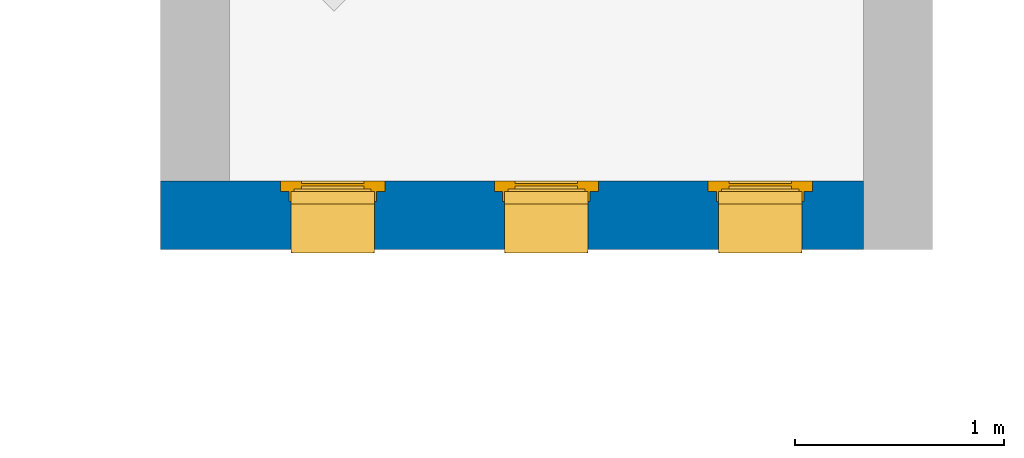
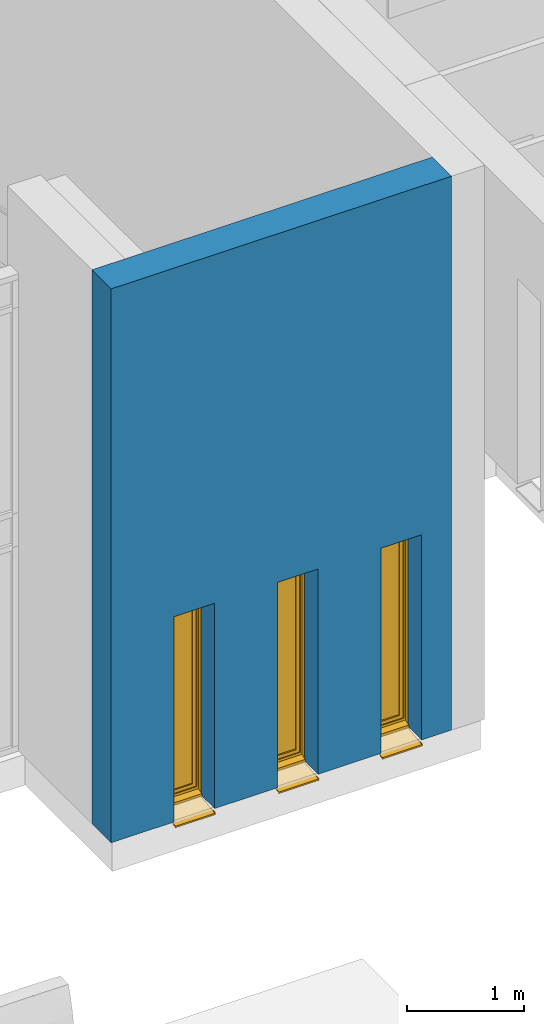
# One storey, part 5 of 40: 3 windows, 1 wall, 3 openings.
"""IFC2X3 building model written with IfcOpenShell, lengths in metres."""

import ifcopenshell
import ifcopenshell.guid

model = None  # the IFC model being written
_history = None  # IfcOwnerHistory: only IFC2X3 demands one
_inside = {}  # id of a spatial element -> (the spatial element, [elements in it])
_under = {}  # id of a project, library or spatial element -> (it, [spatial elements below it])
_declared = {}  # id of a project -> (the project, [libraries it declares])
_typed = {}  # id of a type object -> (the type object, [elements of that type])
_made_of = {}  # id of a material, layer set ... -> (it, [elements and type objects made of it])


def new_model(schema):
    """Start an empty IFC model of exactly this schema.

    Asked for "IFC4X3", IfcOpenShell would pick the latest addendum, in which some entities
    have other attributes; the version numbers below select the first issue.
    IFC2X3 requires an IfcOwnerHistory on every rooted entity: one is made here for all.
    """
    global model, _history
    if schema == "IFC4X3":
        model = ifcopenshell.file(schema_version=(4, 3, 0, 0))
    else:
        model = ifcopenshell.file(schema=schema)
    _inside.clear()
    _under.clear()
    _declared.clear()
    _typed.clear()
    _made_of.clear()
    _history = None
    if model.schema == "IFC2X3":
        org = make("IfcOrganization", Name="unknown")
        user = make(
            "IfcPersonAndOrganization",
            ThePerson=make("IfcPerson", FamilyName="unknown"),
            TheOrganization=org,
        )
        app = make(
            "IfcApplication",
            ApplicationDeveloper=org,
            Version="unknown",
            ApplicationFullName="unknown",
            ApplicationIdentifier="unknown",
        )
        _history = make(
            "IfcOwnerHistory",
            OwningUser=user,
            OwningApplication=app,
            ChangeAction="ADDED",
            CreationDate=0,
        )
    return model


def make(cls, **values):
    """One entity of the class cls with the attributes given. An attribute that is None is left unset."""
    return model.create_entity(
        cls, **{name: value for name, value in values.items() if value is not None}
    )


def entity(cls, *values):
    """Any entity or typed value of the class cls, its attributes in the order of the schema. None: left unset."""
    e = model.create_entity(cls)
    for i, value in enumerate(values):
        if value is not None:
            e[i] = value
    return e


def rooted(cls, **values):
    """An entity with a GlobalId (a new one), such as an element, a storey or a relation."""
    return make(cls, GlobalId=ifcopenshell.guid.new(), OwnerHistory=_history, **values)


def si_unit(unit_type, name, prefix=None):
    """IfcSIUnit, for example si_unit("LENGTHUNIT", "METRE", prefix="MILLI")."""
    return make("IfcSIUnit", UnitType=unit_type, Prefix=prefix, Name=name)


def converted_unit(unit_type, name, factor, base, dimensions=None, offset=None):
    """IfcConversionBasedUnit, such as the inch: factor (a typed value) times the base unit."""
    return make(
        "IfcConversionBasedUnit"
        if offset is None
        else "IfcConversionBasedUnitWithOffset",
        ConversionOffset=offset,
        Dimensions=None
        if dimensions is None
        else entity("IfcDimensionalExponents", *dimensions),
        UnitType=unit_type,
        Name=name,
        ConversionFactor=make(
            "IfcMeasureWithUnit", ValueComponent=factor, UnitComponent=base
        ),
    )


def derived_unit(unit_type, elements):
    """IfcDerivedUnit: a product of units, each with its exponent."""
    return make(
        "IfcDerivedUnit",
        Elements=[
            make("IfcDerivedUnitElement", Unit=unit, Exponent=power)
            for unit, power in elements
        ],
        UnitType=unit_type,
    )


def assignment(units):
    """IfcUnitAssignment: the units of a project."""
    return None if units is None else make("IfcUnitAssignment", Units=units)


def point(xyz):
    """IfcCartesianPoint."""
    return None if xyz is None else make("IfcCartesianPoint", Coordinates=xyz)


def direction(xyz):
    """IfcDirection."""
    return None if xyz is None else make("IfcDirection", DirectionRatios=xyz)


def frame(location, z_axis=None, x_axis=None):
    """IfcAxis2Placement3D, a coordinate frame: its origin and axes. An axis left out is left unset."""
    return make(
        "IfcAxis2Placement3D",
        Location=point(location),
        Axis=direction(z_axis),
        RefDirection=direction(x_axis),
    )


def frame_2d(location, x_axis=None):
    """IfcAxis2Placement2D, a coordinate frame in the plane: its origin and x axis."""
    return make(
        "IfcAxis2Placement2D", Location=point(location), RefDirection=direction(x_axis)
    )


def origin():
    """The frame at (0, 0, 0) with its axes left unset."""
    return frame((0.0, 0.0, 0.0))


def place(relative_to, where):
    """IfcLocalPlacement: puts the frame where relative to a parent placement (None: the world)."""
    return make(
        "IfcLocalPlacement", PlacementRelTo=relative_to, RelativePlacement=where
    )


def context(
    kind, dimensions, precision=None, world=None, true_north=None, identifier=None
):
    """IfcGeometricRepresentationContext, for example the 3D "Model" context."""
    return make(
        "IfcGeometricRepresentationContext",
        ContextIdentifier=identifier,
        ContextType=kind,
        CoordinateSpaceDimension=dimensions,
        Precision=precision,
        WorldCoordinateSystem=world,
        TrueNorth=true_north,
    )


def subcontext(parent, identifier, kind, view, scale=None):
    """IfcGeometricRepresentationSubContext, for example "Body" below "Model"."""
    return make(
        "IfcGeometricRepresentationSubContext",
        ContextIdentifier=identifier,
        ContextType=kind,
        ParentContext=parent,
        TargetScale=scale,
        TargetView=view,
    )


def project(units=None, contexts=None):
    """IfcProject with its units and contexts."""
    return rooted(
        "IfcProject",
        Name="project",
        RepresentationContexts=contexts,
        UnitsInContext=assignment(units),
    )


def spatial(cls, under=None, at=None, **own):
    """A site, building, storey or space (cls), placed at a placement, below another one or the project."""
    s = rooted(cls, ObjectPlacement=at, **own)
    if under is not None:
        _under.setdefault(under.id(), (under, []))[1].append(s)
    return s


def profile(cls, at=None, kind="AREA", **sizes):
    """A parametric profile (cls). Its sizes go by their IFC names, for example OverallWidth=200.0."""
    return make(cls, ProfileType=kind, Position=at, **sizes)


def rectangle(**sizes):
    """IfcRectangleProfileDef."""
    return profile("IfcRectangleProfileDef", **sizes)


def extrude(swept, where, along, depth):
    """IfcExtrudedAreaSolid: the profile swept, set in the frame where, extruded along a direction by depth."""
    return make(
        "IfcExtrudedAreaSolid",
        SweptArea=swept,
        Position=where,
        ExtrudedDirection=direction(along),
        Depth=depth,
    )


def faces_of(points, faces, orient=None, outer=None):
    """IfcFace entities. A face is a list of loops; a loop is a list of indices into points, from 0.

    orient and outer hold one flag for each loop. By default every Orientation is true, the
    first loop of a face is its IfcFaceOuterBound and the others are IfcFaceBound.
    """
    made = []
    for i, loops in enumerate(faces):
        bounds = []
        for j, loop in enumerate(loops):
            is_outer = j == 0 if outer is None else outer[i][j]
            bounds.append(
                make(
                    "IfcFaceOuterBound" if is_outer else "IfcFaceBound",
                    Bound=make("IfcPolyLoop", Polygon=[points[k] for k in loop]),
                    Orientation=True if orient is None else orient[i][j],
                )
            )
        made.append(make("IfcFace", Bounds=bounds))
    return made


def faceted_brep(points, faces, orient=None, outer=None, voids=None):
    """IfcFacetedBrep: a solid bounded by flat faces; with voids (closed shells), ...WithVoids."""
    shared = [point(p) for p in points]
    hull = make("IfcClosedShell", CfsFaces=faces_of(shared, faces, orient, outer))
    if voids is None:
        return make("IfcFacetedBrep", Outer=hull)
    return make(
        "IfcFacetedBrepWithVoids",
        Outer=hull,
        Voids=[
            make(cls, CfsFaces=faces_of(shared, fs, o, b)) for cls, fs, o, b in voids
        ],
    )


def shape(context_of_items, identifier, shape_type, items):
    """IfcShapeRepresentation: the items that make up one representation, for example the "Body"."""
    return make(
        "IfcShapeRepresentation",
        ContextOfItems=context_of_items,
        RepresentationIdentifier=identifier,
        RepresentationType=shape_type,
        Items=items,
    )


def source(mapping_origin, context_of_items, identifier, shape_type, items):
    """IfcRepresentationMap: a shape defined once, which mapped items show again and again."""
    return make(
        "IfcRepresentationMap",
        MappingOrigin=mapping_origin,
        MappedRepresentation=shape(context_of_items, identifier, shape_type, items),
    )


def transform(
    local_origin,
    x_axis=None,
    y_axis=None,
    z_axis=None,
    scale=None,
    scale2=None,
    scale3=None,
    uniform=True,
):
    """IfcCartesianTransformationOperator3D, or its non-uniform kind. x_axis, y_axis, z_axis: its Axis1, 2, 3."""
    if uniform:
        return make(
            "IfcCartesianTransformationOperator3D",
            Axis1=direction(x_axis),
            Axis2=direction(y_axis),
            LocalOrigin=point(local_origin),
            Scale=scale,
            Axis3=direction(z_axis),
        )
    return make(
        "IfcCartesianTransformationOperator3DnonUniform",
        Axis1=direction(x_axis),
        Axis2=direction(y_axis),
        LocalOrigin=point(local_origin),
        Scale=scale,
        Axis3=direction(z_axis),
        Scale2=scale2,
        Scale3=scale3,
    )


def mapped(mapping_source, mapping_target):
    """IfcMappedItem: shows the shape of a source again, moved by a transform."""
    return make(
        "IfcMappedItem", MappingSource=mapping_source, MappingTarget=mapping_target
    )


def material(Name=None, Category=None):
    """IfcMaterial."""
    return make("IfcMaterial", Name=Name, Category=Category)


def material_list(materials):
    """IfcMaterialList."""
    return make("IfcMaterialList", Materials=materials)


def layer(
    of_material, thickness, ventilated=None, Name=None, Category=None, Priority=None
):
    """IfcMaterialLayer: one layer of a wall or slab, of a material (None: an air gap)."""
    return make(
        "IfcMaterialLayer",
        Material=of_material,
        LayerThickness=thickness,
        IsVentilated=ventilated,
        Name=Name,
        Category=Category,
        Priority=Priority,
    )


def layer_set(layers, Name=None):
    """IfcMaterialLayerSet."""
    return make("IfcMaterialLayerSet", MaterialLayers=layers, LayerSetName=Name)


def layer_usage(for_layer_set, set_direction, sense, offset, extent=None):
    """IfcMaterialLayerSetUsage: how a layer set lies in its element."""
    return make(
        "IfcMaterialLayerSetUsage",
        ForLayerSet=for_layer_set,
        LayerSetDirection=set_direction,
        DirectionSense=sense,
        OffsetFromReferenceLine=offset,
        ReferenceExtent=extent,
    )


def made_of(thing, what):
    """Note that an element or type object is made of a material, layer set ...; save() writes the relation."""
    if what is not None:
        _made_of.setdefault(what.id(), (what, []))[1].append(thing)
    return thing


def type_object(cls, material=None, **own):
    """A type object (cls), such as IfcWallType, which elements share."""
    return made_of(rooted(cls, **own), material)


def type_shapes(of_type, sources):
    """Give a type object the sources (RepresentationMaps) that its elements show as mapped items."""
    of_type.RepresentationMaps = sources


def element(
    cls,
    number,
    at=None,
    inside=None,
    cuts=None,
    type_object=None,
    material=None,
    context=None,
    identifier="Body",
    shape_type=None,
    held_by="IfcProductDefinitionShape",
    body=None,
    shapes=None,
    **own,
):
    """One element of the class cls, such as IfcWall. Its Tag is "e" and its number.

    at: its placement. inside: the storey or other place that contains it. cuts: it is an
    opening in that element (IfcRelVoidsElement). A single representation is given by context,
    identifier, shape_type and body (its items); several are given by shapes. held_by: the class
    of the entity that holds the representations. save() writes the other relations.
    """
    e = rooted(cls, Tag="e%d" % number, ObjectPlacement=at, **own)
    if body is not None:
        shapes = [shape(context, identifier, shape_type, body)]
    if shapes is not None:
        e.Representation = make(held_by, Representations=shapes)
    if inside is not None:
        _inside.setdefault(inside.id(), (inside, []))[1].append(e)
    if cuts is not None:
        rooted(
            "IfcRelVoidsElement", RelatingBuildingElement=cuts, RelatedOpeningElement=e
        )
    if type_object is not None:
        _typed.setdefault(type_object.id(), (type_object, []))[1].append(e)
    return made_of(e, material)


def fill(opening, filler):
    """IfcRelFillsElement: the door or window that sits in an opening."""
    return rooted(
        "IfcRelFillsElement",
        RelatingOpeningElement=opening,
        RelatedBuildingElement=filler,
    )


def aggregate(whole, parts):
    """IfcRelAggregates: a whole, such as a stair, and the parts it consists of."""
    return rooted("IfcRelAggregates", RelatingObject=whole, RelatedObjects=parts)


def save(model, path):
    """Write the relations noted so far, then the file.

    IfcRelAggregates (storeys below a building ...), IfcRelContainedInSpatialStructure (elements
    in a storey), IfcRelDefinesByType, IfcRelAssociatesMaterial and IfcRelDeclares: one each for
    every whole, place, type object, material and project.
    """
    for whole, parts in _under.values():
        aggregate(whole, parts)
    for where, things in _inside.values():
        rooted(
            "IfcRelContainedInSpatialStructure",
            RelatedElements=things,
            RelatingStructure=where,
        )
    for kind, things in _typed.values():
        rooted("IfcRelDefinesByType", RelatedObjects=things, RelatingType=kind)
    for what, things in _made_of.values():
        rooted("IfcRelAssociatesMaterial", RelatedObjects=things, RelatingMaterial=what)
    for by, libraries in _declared.values():
        rooted("IfcRelDeclares", RelatingContext=by, RelatedDefinitions=libraries)
    model.write(path)


model = new_model("IFC2X3")

# Units and contexts
model_context = context("Model", 3, precision=1e-05, world=origin(), true_north=direction((6.12303176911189e-17, 1.0)))
body_context = subcontext(model_context, "Body", "Model", "MODEL_VIEW")
ifc_project = project(units=[si_unit("LENGTHUNIT", "METRE"), si_unit("AREAUNIT", "SQUARE_METRE"), si_unit("VOLUMEUNIT", "CUBIC_METRE"), converted_unit("PLANEANGLEUNIT", "DEGREE", entity("IfcRatioMeasure", 0.0174532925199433), si_unit("PLANEANGLEUNIT", "RADIAN"), dimensions=[0, 0, 0, 0, 0, 0, 0]), si_unit("MASSUNIT", "GRAM", prefix="KILO"), derived_unit("MASSDENSITYUNIT", [(si_unit("MASSUNIT", "GRAM", prefix="KILO"), 1), (si_unit("LENGTHUNIT", "METRE"), -3)]), si_unit("TIMEUNIT", "SECOND"), si_unit("FREQUENCYUNIT", "HERTZ"), si_unit("THERMODYNAMICTEMPERATUREUNIT", "DEGREE_CELSIUS"), derived_unit("THERMALTRANSMITTANCEUNIT", [(si_unit("MASSUNIT", "GRAM", prefix="KILO"), 1), (si_unit("THERMODYNAMICTEMPERATUREUNIT", "KELVIN"), -1), (si_unit("TIMEUNIT", "SECOND"), -3)]), derived_unit("VOLUMETRICFLOWRATEUNIT", [(si_unit("LENGTHUNIT", "METRE"), 3), (si_unit("TIMEUNIT", "SECOND"), -1)]), si_unit("ELECTRICCURRENTUNIT", "AMPERE"), si_unit("ELECTRICVOLTAGEUNIT", "VOLT"), si_unit("POWERUNIT", "WATT"), si_unit("FORCEUNIT", "NEWTON", prefix="KILO"), si_unit("ILLUMINANCEUNIT", "LUX"), si_unit("LUMINOUSFLUXUNIT", "LUMEN"), si_unit("LUMINOUSINTENSITYUNIT", "CANDELA"), derived_unit("USERDEFINED", [(si_unit("MASSUNIT", "GRAM", prefix="KILO"), -1), (si_unit("LENGTHUNIT", "METRE"), -2), (si_unit("TIMEUNIT", "SECOND"), 3), (si_unit("LUMINOUSFLUXUNIT", "LUMEN"), 1)]), derived_unit("LINEARVELOCITYUNIT", [(si_unit("LENGTHUNIT", "METRE"), 1), (si_unit("TIMEUNIT", "SECOND"), -1)]), si_unit("PRESSUREUNIT", "PASCAL"), derived_unit("USERDEFINED", [(si_unit("LENGTHUNIT", "METRE"), -2), (si_unit("MASSUNIT", "GRAM", prefix="KILO"), 1), (si_unit("TIMEUNIT", "SECOND"), -2)])], contexts=[model_context])

# Site, building, storey
site_placement = place(None, origin())
site = spatial("IfcSite", under=ifc_project, at=site_placement, Name="Surface", CompositionType="ELEMENT")
building_placement = place(site_placement, origin())
building = spatial("IfcBuilding", under=site, at=building_placement, CompositionType="ELEMENT")
storey_placement = place(building_placement, origin())
storey = spatial("IfcBuildingStorey", under=building, at=storey_placement, Name="RDC", CompositionType="ELEMENT", Elevation=-1.0941605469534e-13)

# Wall, openings, windows
ifc_material_1 = material(Name="Maçonnerie - Enduit")
ifc_layer_1 = layer(ifc_material_1, 0.02)
ifc_material_2 = material(Name="Blocs béton manufacturés")
ifc_layer_2 = layer(ifc_material_2, 0.2)
ifc_material_3 = material(Name="vide")
ifc_layer_3 = layer(ifc_material_3, 0.01)
ifc_material_4 = material(Name="Maçonnerie - Isolant")
ifc_layer_4 = layer(ifc_material_4, 0.09)
ifc_material_5 = material(Name="Plâtre")
ifc_layer_5 = layer(ifc_material_5, 0.01)
ifc_layer_set = layer_set([ifc_layer_1, ifc_layer_2, ifc_layer_3, ifc_layer_4, ifc_layer_5], Name="Mur de base:M7 Ext. Crépis 2 + BBMC 20 + Isolant 11")
ifc_layer_usage = layer_usage(ifc_layer_set, "AXIS2", "NEGATIVE", 0.165)
wall_type = type_object("IfcWallType", Name="Mur de base:M7 Ext. Crépis 2 + BBMC 20 + Isolant 11", PredefinedType="STANDARD", material=ifc_layer_set)
wall_placement = place(storey_placement, frame((9.4675111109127, -0.357989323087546, 0.0), z_axis=(0.0, 0.0, 1.0), x_axis=(-1.0, 0.0, 0.0)))
wall = element("IfcWallStandardCase", 1, at=wall_placement, inside=storey, type_object=wall_type, material=ifc_layer_usage, Name="Mur de base:M7 Ext. Crépis 2 + BBMC 20 + Isolant 11", ObjectType="Mur de base:M7 Ext. Crépis 2 + BBMC 20 + Isolant 11", context=body_context, shape_type="SweptSolid", body=[
    extrude(rectangle(XDim=3.37, YDim=0.33, at=frame_2d((1.685, 0.0), x_axis=(-1.0, 0.0))), origin(), (0.0, 0.0, 1.0), 5.80000000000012),
])
opening_1_placement = place(wall_placement, frame((2.795, 0.500000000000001, -0.0764859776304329), z_axis=(0.0, 0.0, 1.0), x_axis=(-1.0, 0.0, 0.0)))
opening_1 = element("IfcOpeningElement", 2, at=opening_1_placement, cuts=wall, Name="Mur de base:M7 Ext. Crépis 2 + BBMC 20 + Isolant 11", ObjectType="Opening", context=body_context, shape_type="Brep", body=[
    faceted_brep([(0.45, 0.585000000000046, 0.0764859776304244), (0.45, 0.564999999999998, 0.0764859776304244), (0.45, 0.564999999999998, 2.22648597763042), (0.449999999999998, 0.0, 2.22648597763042), (0.449999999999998, 0.0, 0.0), (0.45, 0.585000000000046, 0.0614859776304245), (0.0500000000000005, 1.0, 0.0764859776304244), (0.0499999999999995, 0.665, 0.0764859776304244), (0.0499999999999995, 0.665, 2.22648597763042), (0.0500000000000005, 1.0, 2.22648597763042), (0.450000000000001, 1.0, 0.0764859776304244), (0.45, 0.665, 0.0764859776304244), (0.5, 0.665, 0.0764859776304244), (0.5, 0.615000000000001, 0.0764859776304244), (0.46, 0.615000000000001, 0.0764859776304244), (0.46, 0.564999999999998, 0.0764859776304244), (0.0500000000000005, 0.585000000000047, 0.0764859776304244), (0.0499999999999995, 0.564999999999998, 0.0764859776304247), (0.0400000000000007, 0.564999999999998, 0.0764859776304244), (0.0400000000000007, 0.615000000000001, 0.0764859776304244), (0.0, 0.615000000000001, 0.0764859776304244), (0.0, 0.665, 0.0764859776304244), (0.450000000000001, 1.0, 2.22648597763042), (0.0499999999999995, 0.564999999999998, 2.22648597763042), (0.0499999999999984, 0.0, 2.22648597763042), (0.0499999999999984, 0.0, 0.0), (0.0499999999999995, 0.585000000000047, 0.0614859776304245), (0.5, 0.665, 2.27648597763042), (0.5, 0.615000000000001, 2.27648597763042), (0.0, 0.615000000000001, 2.27648597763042), (0.0399999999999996, 0.615000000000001, 2.23648597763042), (0.459999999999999, 0.615000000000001, 2.23648597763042), (0.46, 0.564999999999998, 2.23648597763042), (0.0400000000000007, 0.564999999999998, 2.23648597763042), (0.45, 0.665, 2.22648597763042), (0.0, 0.665, 2.27648597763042)], [[[0, 1, 2, 3, 4, 5]], [[6, 7, 8, 9]], [[10, 11, 12, 13, 14, 15, 1, 0, 16, 17, 18, 19, 20, 21, 7, 6]], [[10, 6, 9, 22]], [[3, 2, 23, 24]], [[3, 24, 25, 4]], [[4, 25, 26, 5]], [[5, 26, 16, 0]], [[12, 27, 28, 13]], [[13, 28, 29, 20, 19, 30, 31, 14]], [[14, 31, 32, 15]], [[15, 32, 33, 18, 17, 23, 2, 1]], [[11, 34, 8, 7, 21, 35, 27, 12]], [[27, 35, 29, 28]], [[30, 33, 32, 31]], [[29, 35, 21, 20]], [[19, 18, 33, 30]], [[9, 8, 34, 22]], [[24, 23, 17, 16, 26, 25]], [[22, 34, 11, 10]]]),
])
opening_2_placement = place(wall_placement, frame((1.77, 0.500000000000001, -0.0764859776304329), z_axis=(0.0, 0.0, 1.0), x_axis=(-1.0, 0.0, 0.0)))
opening_2 = element("IfcOpeningElement", 3, at=opening_2_placement, cuts=wall, Name="Mur de base:M7 Ext. Crépis 2 + BBMC 20 + Isolant 11", ObjectType="Opening", context=body_context, shape_type="Brep", body=[
    faceted_brep([(0.449999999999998, 0.585000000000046, 0.0764859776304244), (0.449999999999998, 0.564999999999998, 0.0764859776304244), (0.449999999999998, 0.564999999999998, 2.22648597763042), (0.449999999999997, 0.0, 2.22648597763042), (0.449999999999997, 0.0, 0.0), (0.449999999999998, 0.585000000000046, 0.0614859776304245), (0.0499999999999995, 1.0, 0.0764859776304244), (0.0499999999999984, 0.665, 0.0764859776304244), (0.0499999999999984, 0.665, 2.22648597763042), (0.0499999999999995, 1.0, 2.22648597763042), (0.45, 1.0, 0.0764859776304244), (0.449999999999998, 0.665, 0.0764859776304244), (0.499999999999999, 0.665, 0.0764859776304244), (0.499999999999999, 0.615000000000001, 0.0764859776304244), (0.459999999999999, 0.615000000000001, 0.0764859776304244), (0.459999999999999, 0.564999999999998, 0.0764859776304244), (0.0499999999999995, 0.585000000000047, 0.0764859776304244), (0.0499999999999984, 0.564999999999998, 0.0764859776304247), (0.0399999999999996, 0.564999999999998, 0.0764859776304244), (0.0399999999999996, 0.615000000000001, 0.0764859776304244), (0.0, 0.615000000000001, 0.0764859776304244), (0.0, 0.665, 0.0764859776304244), (0.45, 1.0, 2.22648597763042), (0.0499999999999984, 0.564999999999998, 2.22648597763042), (0.0499999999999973, 0.0, 2.22648597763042), (0.0499999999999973, 0.0, 0.0), (0.0499999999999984, 0.585000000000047, 0.0614859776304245), (0.499999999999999, 0.665, 2.27648597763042), (0.499999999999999, 0.615000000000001, 2.27648597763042), (0.0, 0.615000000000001, 2.27648597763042), (0.0399999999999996, 0.615000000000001, 2.23648597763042), (0.459999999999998, 0.615000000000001, 2.23648597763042), (0.459999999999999, 0.564999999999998, 2.23648597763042), (0.0399999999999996, 0.564999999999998, 2.23648597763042), (0.449999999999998, 0.665, 2.22648597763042), (0.0, 0.665, 2.27648597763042)], [[[0, 1, 2, 3, 4, 5]], [[6, 7, 8, 9]], [[10, 11, 12, 13, 14, 15, 1, 0, 16, 17, 18, 19, 20, 21, 7, 6]], [[10, 6, 9, 22]], [[3, 2, 23, 24]], [[3, 24, 25, 4]], [[4, 25, 26, 5]], [[5, 26, 16, 0]], [[12, 27, 28, 13]], [[13, 28, 29, 20, 19, 30, 31, 14]], [[14, 31, 32, 15]], [[15, 32, 33, 18, 17, 23, 2, 1]], [[11, 34, 8, 7, 21, 35, 27, 12]], [[27, 35, 29, 28]], [[30, 33, 32, 31]], [[29, 35, 21, 20]], [[19, 18, 33, 30]], [[9, 8, 34, 22]], [[24, 23, 17, 16, 26, 25]], [[22, 34, 11, 10]]]),
])
opening_3_placement = place(wall_placement, frame((0.744999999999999, 0.500000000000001, -0.0764859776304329), z_axis=(0.0, 0.0, 1.0), x_axis=(-1.0, 0.0, 0.0)))
opening_3 = element("IfcOpeningElement", 4, at=opening_3_placement, cuts=wall, Name="Mur de base:M7 Ext. Crépis 2 + BBMC 20 + Isolant 11", ObjectType="Opening", context=body_context, shape_type="Brep", body=[
    faceted_brep([(0.449999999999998, 0.585000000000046, 0.0764859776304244), (0.449999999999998, 0.564999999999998, 0.0764859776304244), (0.449999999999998, 0.564999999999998, 2.22648597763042), (0.449999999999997, 0.0, 2.22648597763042), (0.449999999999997, 0.0, 0.0), (0.449999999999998, 0.585000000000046, 0.0614859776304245), (0.0499999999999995, 1.0, 0.0764859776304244), (0.0499999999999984, 0.665, 0.0764859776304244), (0.0499999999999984, 0.665, 2.22648597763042), (0.0499999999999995, 1.0, 2.22648597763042), (0.45, 1.0, 0.0764859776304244), (0.449999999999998, 0.665, 0.0764859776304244), (0.499999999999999, 0.665, 0.0764859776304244), (0.499999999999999, 0.615000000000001, 0.0764859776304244), (0.459999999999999, 0.615000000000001, 0.0764859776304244), (0.459999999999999, 0.564999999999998, 0.0764859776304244), (0.0499999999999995, 0.585000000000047, 0.0764859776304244), (0.0499999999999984, 0.564999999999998, 0.0764859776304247), (0.0399999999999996, 0.564999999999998, 0.0764859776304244), (0.0399999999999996, 0.615000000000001, 0.0764859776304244), (0.0, 0.615000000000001, 0.0764859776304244), (0.0, 0.665, 0.0764859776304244), (0.45, 1.0, 2.22648597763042), (0.0499999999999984, 0.564999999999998, 2.22648597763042), (0.0499999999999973, 0.0, 2.22648597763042), (0.0499999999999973, 0.0, 0.0), (0.0499999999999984, 0.585000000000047, 0.0614859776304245), (0.499999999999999, 0.665, 2.27648597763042), (0.499999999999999, 0.615000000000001, 2.27648597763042), (0.0, 0.615000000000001, 2.27648597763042), (0.0399999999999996, 0.615000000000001, 2.23648597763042), (0.459999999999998, 0.615000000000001, 2.23648597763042), (0.459999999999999, 0.564999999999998, 2.23648597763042), (0.0399999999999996, 0.564999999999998, 2.23648597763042), (0.449999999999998, 0.665, 2.22648597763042), (0.0, 0.665, 2.27648597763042)], [[[0, 1, 2, 3, 4, 5]], [[6, 7, 8, 9]], [[10, 11, 12, 13, 14, 15, 1, 0, 16, 17, 18, 19, 20, 21, 7, 6]], [[10, 6, 9, 22]], [[3, 2, 23, 24]], [[3, 24, 25, 4]], [[4, 25, 26, 5]], [[5, 26, 16, 0]], [[12, 27, 28, 13]], [[13, 28, 29, 20, 19, 30, 31, 14]], [[14, 31, 32, 15]], [[15, 32, 33, 18, 17, 23, 2, 1]], [[11, 34, 8, 7, 21, 35, 27, 12]], [[27, 35, 29, 28]], [[30, 33, 32, 31]], [[29, 35, 21, 20]], [[19, 18, 33, 30]], [[9, 8, 34, 22]], [[24, 23, 17, 16, 26, 25]], [[22, 34, 11, 10]]]),
])
ifc_material_6 = material(Name="Fenêtre - Appui")
ifc_material_7 = material(Name="Fenêtre - Vitrage")
ifc_material_8 = material(Name="Fenêtre - Cadre")
ifc_material_list_1 = material_list([ifc_material_6, ifc_material_7, ifc_material_8])
ifc_material_list_2 = material_list([ifc_material_6, ifc_material_7, ifc_material_8])
window_style = type_object("IfcWindowStyle", Name="0.40m x2.15m", ConstructionType="NOTDEFINED", OperationType="SINGLE_PANEL", ParameterTakesPrecedence=False, Sizeable=False, material=ifc_material_list_2)
shared_shape = source(origin(), body_context, "Body", "Brep", [
    faceted_brep([(0.45, -0.319999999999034, 0.0388885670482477), (0.45, -0.579999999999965, 0.0662156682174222), (0.45, -0.579999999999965, 0.0764859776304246), (0.45, -0.584999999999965, 0.0764859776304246), (0.45, -0.584999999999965, 0.061485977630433), (0.45, -0.324999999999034, 0.0341588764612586), (0.45, -0.324999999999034, 0.0238583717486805), (0.45, -0.319999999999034, 0.0233328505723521), (0.0499999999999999, -0.319999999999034, 0.0388885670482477), (0.0499999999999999, -0.319999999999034, 0.0233328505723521), (0.0499999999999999, -0.324999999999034, 0.0238583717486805), (0.0499999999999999, -0.324999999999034, 0.0341588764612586), (0.0499999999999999, -0.584999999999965, 0.061485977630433), (0.0499999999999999, -0.584999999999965, 0.0764859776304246), (0.0499999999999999, -0.579999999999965, 0.0764859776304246), (0.0499999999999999, -0.579999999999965, 0.0662156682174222)], [[[0, 1, 2, 3, 4, 5, 6, 7]], [[8, 9, 10, 11, 12, 13, 14, 15]], [[1, 0, 8, 15]], [[2, 1, 15, 14]], [[3, 2, 14, 13]], [[4, 3, 13, 12]], [[5, 4, 12, 11]], [[6, 5, 11, 10]], [[7, 6, 10, 9]], [[0, 7, 9, 8]]]),
    faceted_brep([(0.0500000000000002, -0.319999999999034, 0.0403144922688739), (0.0500000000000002, -0.319999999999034, 0.0388885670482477), (0.0499999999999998, -0.579999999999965, 0.0662156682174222), (0.0499999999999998, -0.579999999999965, 0.0712432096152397), (0.0500000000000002, -0.323581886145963, 0.0442925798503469), (0.0500000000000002, -0.321027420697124, 0.0429910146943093), (0.0549999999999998, -0.579999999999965, 0.0712432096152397), (0.0549999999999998, -0.579999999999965, 0.0662156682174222), (0.0550000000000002, -0.319999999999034, 0.0388885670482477), (0.0550000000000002, -0.319999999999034, 0.0403144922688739), (0.0550000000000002, -0.321027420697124, 0.0429910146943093), (0.0550000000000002, -0.323581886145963, 0.0442925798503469)], [[[0, 1, 2, 3, 4, 5]], [[6, 7, 8, 9, 10, 11]], [[2, 1, 8, 7]], [[3, 2, 7, 6]], [[4, 3, 6, 11]], [[4, 11, 10, 5]], [[10, 9, 0, 5]], [[1, 0, 9, 8]]]),
    faceted_brep([(0.445, -0.319999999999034, 0.0403144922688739), (0.445, -0.319999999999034, 0.0388885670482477), (0.445, -0.579999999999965, 0.0662156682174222), (0.445, -0.579999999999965, 0.0712432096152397), (0.445, -0.323581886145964, 0.0442925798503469), (0.445, -0.321027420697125, 0.0429910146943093), (0.45, -0.579999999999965, 0.0712432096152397), (0.45, -0.579999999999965, 0.0662156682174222), (0.45, -0.319999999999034, 0.0388885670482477), (0.45, -0.319999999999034, 0.0403144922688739), (0.45, -0.321027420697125, 0.0429910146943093), (0.45, -0.323581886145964, 0.0442925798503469)], [[[0, 1, 2, 3, 4, 5]], [[6, 7, 8, 9, 10, 11]], [[2, 1, 8, 7]], [[3, 2, 7, 6]], [[4, 3, 6, 11]], [[4, 11, 10, 5]], [[10, 9, 0, 5]], [[1, 0, 9, 8]]]),
    faceted_brep([(0.0999999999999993, -0.639000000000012, 0.176485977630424), (0.0999999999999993, -0.639000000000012, 2.17648597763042), (0.4, -0.639000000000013, 2.17648597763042), (0.4, -0.639000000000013, 0.176485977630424), (0.0999999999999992, -0.651000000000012, 0.176485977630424), (0.0999999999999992, -0.651000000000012, 2.17648597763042), (0.4, -0.651000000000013, 2.17648597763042), (0.4, -0.651000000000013, 0.176485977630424)], [[[0, 1, 2, 3]], [[1, 0, 4, 5]], [[3, 2, 6, 7]], [[0, 3, 7, 4]], [[4, 7, 6, 5]], [[2, 1, 5, 6]]]),
    faceted_brep([(0.0999999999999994, -0.625000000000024, 2.17648597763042), (0.0999999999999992, -0.665000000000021, 2.17648597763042), (0.0999999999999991, -0.665000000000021, 0.176485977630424), (0.0999999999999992, -0.625000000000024, 0.176485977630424), (0.4, -0.665000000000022, 0.176485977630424), (0.4, -0.625000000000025, 0.176485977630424), (0.399999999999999, -0.665000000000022, 2.17648597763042), (0.449999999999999, -0.665000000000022, 0.126485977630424), (0.45, -0.665000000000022, 2.22648597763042), (0.0499999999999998, -0.665000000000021, 2.22648597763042), (0.0499999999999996, -0.665000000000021, 0.126485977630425), (0.4, -0.625000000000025, 2.17648597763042), (0.049999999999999, -0.625000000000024, 0.126485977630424), (0.0499999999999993, -0.625000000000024, 2.22648597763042), (0.45, -0.625000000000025, 2.22648597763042), (0.45, -0.625000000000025, 0.126485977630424)], [[[0, 1, 2, 3]], [[3, 2, 4, 5]], [[2, 1, 6, 4], [7, 8, 9, 10]], [[5, 4, 6, 11]], [[5, 11, 0, 3], [12, 13, 14, 15]], [[9, 13, 12, 10]], [[10, 12, 15, 7]], [[7, 15, 14, 8]], [[11, 6, 1, 0]], [[8, 14, 13, 9]]], outer=[[True], [True], [False, True], [True], [False, True], [True], [True], [True], [True], [True]]),
    faceted_brep([(0.0, -0.665, 0.0764859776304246), (0.0, -0.615000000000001, 0.0764859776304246), (0.0499999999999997, -0.615000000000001, 0.0764859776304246), (0.0499999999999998, -0.565000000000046, 0.0764859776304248), (0.45, -0.565000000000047, 0.0764859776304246), (0.45, -0.615000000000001, 0.0764859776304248), (0.499999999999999, -0.615000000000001, 0.0764859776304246), (0.499999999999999, -0.665, 0.0764859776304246), (0.0, -0.665, 2.27648597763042), (0.0, -0.615000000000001, 2.27648597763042), (0.499999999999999, -0.615000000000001, 2.27648597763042), (0.45, -0.615000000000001, 0.115862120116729), (0.0499999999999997, -0.615000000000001, 0.115862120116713), (0.0649999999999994, -0.615000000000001, 2.21148597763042), (0.0649999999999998, -0.615000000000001, 0.141485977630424), (0.435, -0.615000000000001, 0.141485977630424), (0.435, -0.615000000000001, 2.21148597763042), (0.0499999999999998, -0.555000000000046, 0.0997851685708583), (0.0499999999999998, -0.555000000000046, 0.0714859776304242), (0.0499999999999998, -0.565000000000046, 0.0714859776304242), (0.45, -0.565000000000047, 0.0714859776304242), (0.45, -0.555000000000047, 0.0714859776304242), (0.45, -0.555000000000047, 0.0997851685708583), (0.499999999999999, -0.665, 2.27648597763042), (0.45, -0.665, 2.22648597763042), (0.45, -0.665, 0.126485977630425), (0.0499999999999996, -0.665, 0.126485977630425), (0.0499999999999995, -0.665, 2.22648597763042), (0.0649999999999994, -0.625000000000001, 2.21148597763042), (0.0649999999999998, -0.625000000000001, 0.141485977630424), (0.435, -0.625000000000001, 0.141485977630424), (0.435, -0.625000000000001, 2.21148597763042), (0.45, -0.625000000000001, 2.22648597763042), (0.0499999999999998, -0.625000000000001, 2.22648597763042), (0.0499999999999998, -0.625000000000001, 0.126485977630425), (0.45, -0.625000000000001, 0.126485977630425)], [[[0, 1, 2, 3, 4, 5, 6, 7]], [[1, 0, 8, 9]], [[1, 9, 10, 6, 5, 11, 12, 2], [13, 14, 15, 16]], [[12, 17, 18, 19, 3, 2]], [[3, 19, 20, 4]], [[4, 20, 21, 22, 11, 5]], [[6, 10, 23, 7]], [[0, 7, 23, 8], [24, 25, 26, 27]], [[13, 28, 29, 14]], [[29, 30, 15, 14]], [[31, 16, 15, 30]], [[17, 12, 11, 22]], [[28, 31, 30, 29], [32, 33, 34, 35]], [[34, 33, 27, 26]], [[26, 25, 35, 34]], [[24, 32, 35, 25]], [[18, 17, 22, 21]], [[19, 18, 21, 20]], [[13, 16, 31, 28]], [[10, 9, 8, 23]], [[33, 32, 24, 27]]], outer=[[True], [True], [True, False], [True], [True], [True], [True], [True, False], [True], [True], [True], [True], [False, True], [True], [True], [True], [True], [True], [True], [True], [True]]),
    faceted_brep([(0.0499999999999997, -0.564999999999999, 0.0764859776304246), (0.0499999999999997, -0.615000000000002, 0.0764859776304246), (0.0399999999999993, -0.615000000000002, 0.0764859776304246), (0.0399999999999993, -0.564999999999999, 0.0764859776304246), (0.0499999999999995, -0.564999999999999, 2.22648597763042), (0.0499999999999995, -0.615000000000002, 2.22648597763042), (0.45, -0.615000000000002, 2.22648597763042), (0.45, -0.615000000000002, 0.0764859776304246), (0.46, -0.615000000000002, 0.0764859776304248), (0.46, -0.615000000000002, 2.23648597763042), (0.0399999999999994, -0.615000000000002, 2.23648597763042), (0.0399999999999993, -0.564999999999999, 2.23648597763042), (0.46, -0.564999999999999, 2.23648597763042), (0.46, -0.564999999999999, 0.0764859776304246), (0.45, -0.564999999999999, 0.0764859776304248), (0.45, -0.564999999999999, 2.22648597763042)], [[[0, 1, 2, 3]], [[1, 0, 4, 5]], [[2, 1, 5, 6, 7, 8, 9, 10]], [[3, 2, 10, 11]], [[0, 3, 11, 12, 13, 14, 15, 4]], [[6, 15, 14, 7]], [[14, 13, 8, 7]], [[12, 9, 8, 13]], [[5, 4, 15, 6]], [[11, 10, 9, 12]]]),
])
type_shapes(window_style, [shared_shape])
window_1_placement = place(opening_1_placement, frame((0.5, 0.0, 0.0), z_axis=(0.0, 0.0, 1.0), x_axis=(-1.0, 0.0, 0.0)))
window_1 = element("IfcWindow", 5, at=window_1_placement, inside=storey, type_object=window_style, material=ifc_material_list_1, Name="1 Vantail - Droit:0.40m x2.15m", ObjectType="0.40m x2.15m", OverallHeight=2.28, OverallWidth=0.5, context=body_context, shape_type="MappedRepresentation", body=[
    mapped(shared_shape, transform((0.0, 0.0, 0.0), scale=1.0)),
])
fill(opening_1, window_1)
ifc_material_list_3 = material_list([ifc_material_6, ifc_material_7, ifc_material_8])
window_2_placement = place(opening_2_placement, frame((0.499999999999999, 0.0, 0.0), z_axis=(0.0, 0.0, 1.0), x_axis=(-1.0, 0.0, 0.0)))
window_2 = element("IfcWindow", 6, at=window_2_placement, inside=storey, type_object=window_style, material=ifc_material_list_3, Name="1 Vantail - Droit:0.40m x2.15m", ObjectType="0.40m x2.15m", OverallHeight=2.28, OverallWidth=0.5, context=body_context, shape_type="MappedRepresentation", body=[
    mapped(shared_shape, transform((0.0, 0.0, 0.0), scale=1.0)),
])
fill(opening_2, window_2)
ifc_material_list_4 = material_list([ifc_material_6, ifc_material_7, ifc_material_8])
window_3_placement = place(opening_3_placement, frame((0.499999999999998, 0.0, 0.0), z_axis=(0.0, 0.0, 1.0), x_axis=(-1.0, 0.0, 0.0)))
window_3 = element("IfcWindow", 7, at=window_3_placement, inside=storey, type_object=window_style, material=ifc_material_list_4, Name="1 Vantail - Droit:0.40m x2.15m", ObjectType="0.40m x2.15m", OverallHeight=2.28, OverallWidth=0.5, context=body_context, shape_type="MappedRepresentation", body=[
    mapped(shared_shape, transform((0.0, 0.0, 0.0), scale=1.0)),
])
fill(opening_3, window_3)

save(model, "model.ifc")
